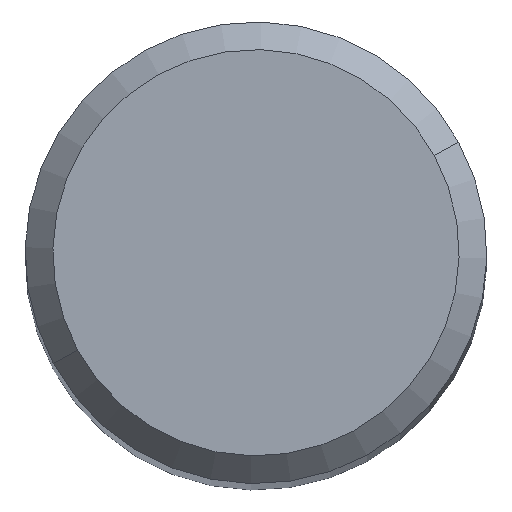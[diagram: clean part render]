
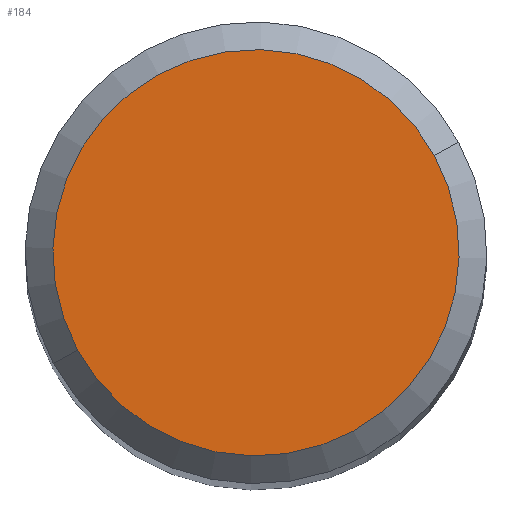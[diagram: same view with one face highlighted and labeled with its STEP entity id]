
A CAD part, top view. The second image highlights one B-rep face of the part: STEP entity #184.
In plain terms, the highlighted planar face has unit normal (0, 0, 1).
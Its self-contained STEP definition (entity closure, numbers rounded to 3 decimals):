
#39=AXIS2_PLACEMENT_3D('Circle Axis2P3D',#37,#38,$) ;
#74=AXIS2_PLACEMENT_3D('Circle Axis2P3D',#72,#73,$) ;
#178=AXIS2_PLACEMENT_3D('Plane Axis2P3D',#175,#176,#177) ;
#37=CARTESIAN_POINT('Axis2P3D Location',(0.,0.,0.)) ;
#41=CARTESIAN_POINT('Vertex',(3.861,2.109,0.)) ;
#43=CARTESIAN_POINT('Vertex',(-3.861,-2.109,0.)) ;
#72=CARTESIAN_POINT('Axis2P3D Location',(0.,0.,0.)) ;
#175=CARTESIAN_POINT('Axis2P3D Location',(0.,0.,0.)) ;
#38=DIRECTION('Axis2P3D Direction',(0.,0.,-1.)) ;
#73=DIRECTION('Axis2P3D Direction',(0.,0.,-1.)) ;
#176=DIRECTION('Axis2P3D Direction',(0.,0.,1.)) ;
#177=DIRECTION('Axis2P3D XDirection',(1.,0.,0.)) ;
#181=ORIENTED_EDGE('',*,*,#45,.T.) ;
#182=ORIENTED_EDGE('',*,*,#76,.T.) ;
#184=ADVANCED_FACE('NO_CUT',(#183),#179,.T.) ;
#40=CIRCLE('generated circle',#39,4.4) ;
#75=CIRCLE('generated circle',#74,4.4) ;
#45=EDGE_CURVE('',#42,#44,#40,.F.) ;
#76=EDGE_CURVE('',#44,#42,#75,.F.) ;
#180=EDGE_LOOP('',(#181,#182)) ;
#183=FACE_OUTER_BOUND('',#180,.T.) ;
#179=PLANE('Plane',#178) ;
#42=VERTEX_POINT('',#41) ;
#44=VERTEX_POINT('',#43) ;
